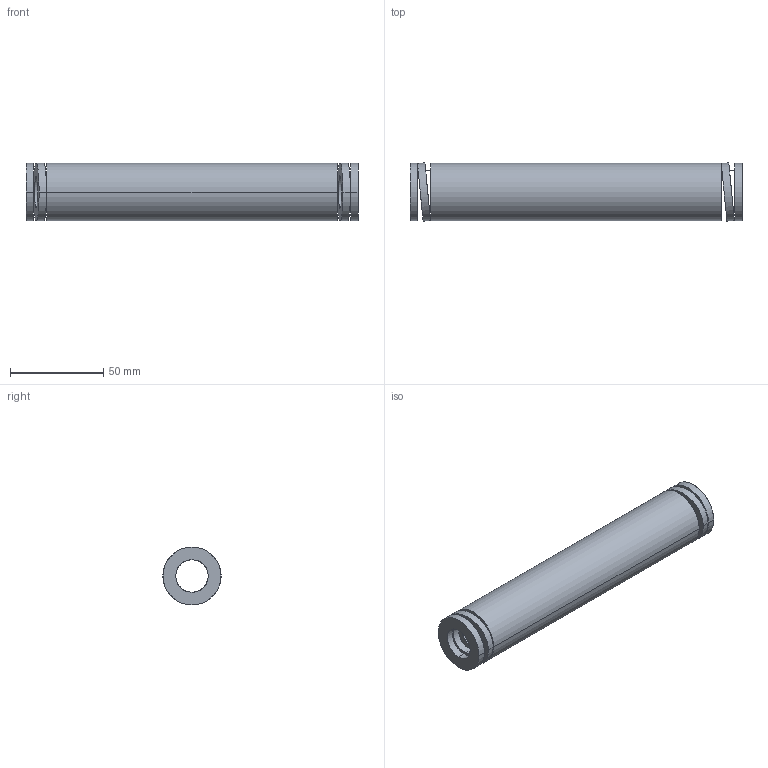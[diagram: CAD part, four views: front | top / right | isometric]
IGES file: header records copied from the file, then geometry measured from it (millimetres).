
Start section: START RECORD GO HERE.
Global section: file name: 392-B32-178.igs; native system: DASSAULT SYSTEMES CATIA V5 R20 - www.3ds.com; preprocessor: CATIA Version 5 Release 20 ; author: Utente; organization: NB04-ASUS; date: 20210813.105011; units: millimetre
Bounding box: 178 x 31.24 x 31 mm (x, y, z)
Surface area: 31298.8 mm2 (no closed solid volume)
Topology: 0 solids, 0 shells, 38 faces, 184 edges, 184 vertices
Faces by surface type: revolution 28, plane 10
